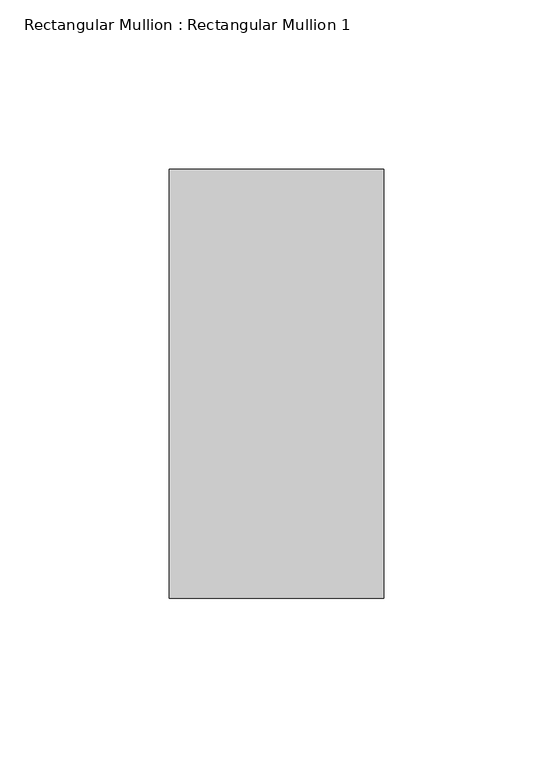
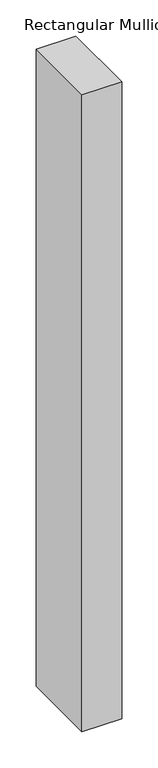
"""IFC4 building model written with IfcOpenShell, lengths in millimetres: member geometry, Rectangular Mullion : Rectangular Mullion 1."""

from ifc_helpers import new_model, si_unit, frame, origin, place, context, project, spatial, polyline, outline, extrude, source, transform, mapped, element, save


def rectangular_mullion_rectangular_mullion_1_ec72136e(model_context):
    return source(origin(), model_context, "Body", "SweptSolid", [
        extrude(outline(polyline([(31.75, 63.5), (31.75, -63.5), (-31.75, -63.5), (-31.75, 63.5), (31.75, 63.5)])), frame((0.0, 0.0, -1076.96), z_axis=(0.0, 0.0, 1.0), x_axis=(1.0, 0.0, 0.0)), (0.0, 0.0, 1.0), 1076.96),
    ])


if __name__ == "__main__":
    model = new_model("IFC4")
    model_context = context("Model", 3, world=origin())
    ifc_project = project(units=[si_unit("LENGTHUNIT", "METRE", prefix="MILLI")], contexts=[model_context])
    site = spatial("IfcSite", under=ifc_project)
    building = spatial("IfcBuilding", under=site)
    placement = place(None, origin())
    rectangular_mullion_rectangular_mullion_1_shape = rectangular_mullion_rectangular_mullion_1_ec72136e(model_context)
    element("IfcMember", 1, ObjectType="Rectangular Mullion : Rectangular Mullion 1", at=placement, inside=building, context=model_context, shape_type="MappedRepresentation", body=[
        mapped(rectangular_mullion_rectangular_mullion_1_shape, transform((0.0, 0.0, 0.0), x_axis=(1.0, 0.0, 0.0), y_axis=(0.0, 1.0, 0.0), z_axis=(0.0, 0.0, 1.0))),
    ])
    save(model, "model.ifc")
